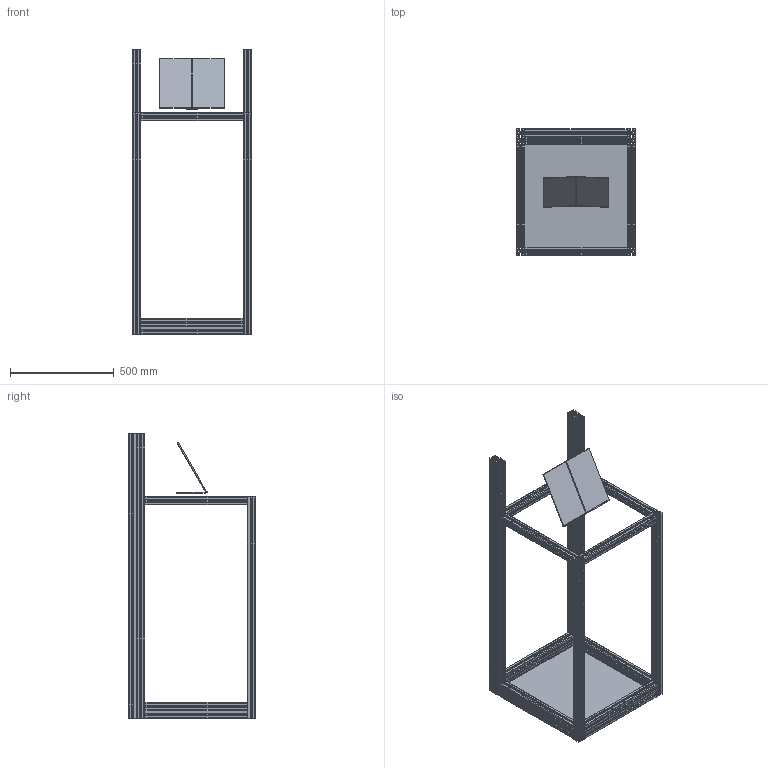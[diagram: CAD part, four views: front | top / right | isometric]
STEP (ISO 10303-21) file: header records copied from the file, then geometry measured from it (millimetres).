
FILE_DESCRIPTION(/* description */ ('STEP AP242','CAx-IF Rec.Pracs.---Representation and Presentation of Product Manufacturing Information (PMI)---4.0---2014-10-13','CAx-IF Rec.Pracs.---3D Tessellated Geometry---0.4---2014-09-14','2;1'),/* implementation_level */ '2;1');
FILE_NAME(/* name */ '66269cf568ae0d7b7e0af9c7',/* time_stamp */ '2024-04-22T17:23:02Z',/* author */ (''),/* organization */ (''),/* preprocessor_version */ 'ST-DEVELOPER v20',/* originating_system */ ' ',/* authorisation */ ' ');
FILE_SCHEMA (('AP242_MANAGED_MODEL_BASED_3D_ENGINEERING_MIM_LF { 1 0 10303 442 1 1 4 }'));
Length unit declared in the file: metre
Products named in the file (6): Marketing Kiosk Assembly; 11-1515-19.5; 11-1515-42; 11-1515-29.5; Judge's Book Prop; Kiosk Base Panel
Assembly tree (19 placements, depth 2):
  Marketing Kiosk Assembly
    11-1515-19.5  x12
    11-1515-42  x2
    11-1515-29.5  x4
    Kiosk Base Panel
  Judge's Book Prop
Bounding box: 571.5 x 609.6 x 1371.6 mm (x, y, z)
Volume: 16049667.2 mm3; surface area: 5205536.9 mm2
Topology: 20 solids, 20 shells, 2609 faces, 10129 edges, 7536 vertices
Faces by surface type: cylinder 1438, plane 1171
Full cylindrical faces by diameter (mm): 6.35 x8, 6.477 x4
Entity records: 23478 total; most frequent: CARTESIAN_POINT 5051, ORIENTED_EDGE 4202, DIRECTION 3561, EDGE_CURVE 2101, VERTEX_POINT 1548, LINE 1333, VECTOR 1333, AXIS2_PLACEMENT_3D 1114
